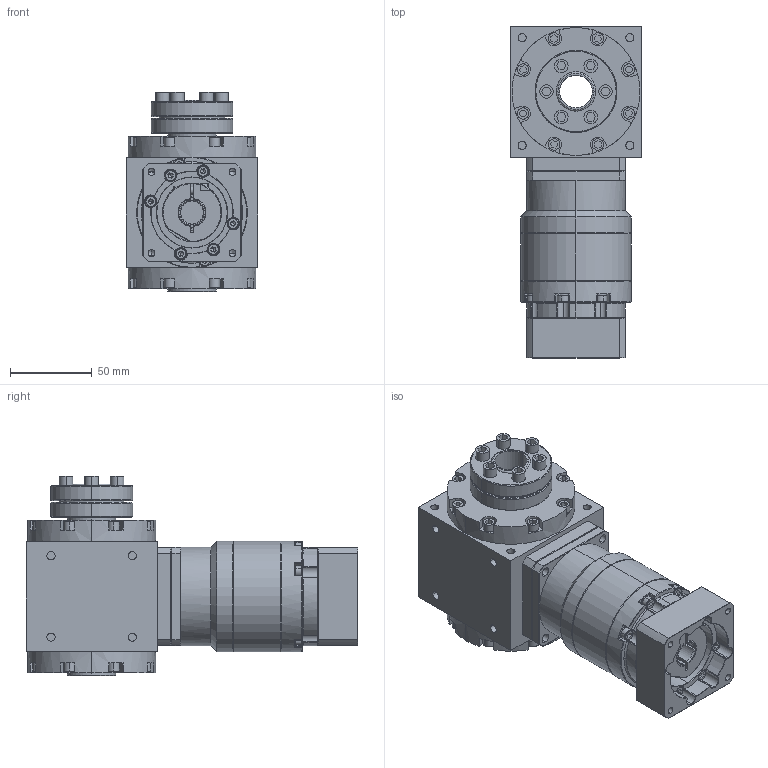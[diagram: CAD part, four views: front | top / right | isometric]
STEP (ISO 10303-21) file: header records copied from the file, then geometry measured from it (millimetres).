
FILE_DESCRIPTION (( 'STEP AP203' ), '1' );
FILE_NAME ('AAW080AS-L2-RFHP 14-50-70-M5.STEP', '2024-12-24T01:12:17', ( '' ), ( '' ), 'SwSTEP 2.0', 'SolidWorks 2021', '' );
FILE_SCHEMA (( 'CONFIG_CONTROL_DESIGN' ));
Length unit declared in the file: millimetre
Products named in the file (3): AAW080AS-FRHP; AAW080AS-L2-RFHP 14-50-70-M5; VRB-060-L2-S2-P1 14-50-70-M5
Assembly tree (2 placements, depth 2):
  AAW080AS-L2-RFHP 14-50-70-M5
    AAW080AS-FRHP
    VRB-060-L2-S2-P1 14-50-70-M5
Bounding box: 80 x 202.5 x 122 mm (x, y, z)
Volume: 842823.8 mm3; surface area: 140641 mm2
Topology: 33 solids, 33 shells, 1356 faces, 3309 edges, 2089 vertices
Faces by surface type: plane 640, cylinder 444, cone 200, torus 50, bspline 22
Entity records: 41122 total; most frequent: CARTESIAN_POINT 8560, DIRECTION 7042, ORIENTED_EDGE 6522, EDGE_CURVE 3261, AXIS2_PLACEMENT_3D 2680, VERTEX_POINT 2089, VECTOR 1682, LINE 1682
